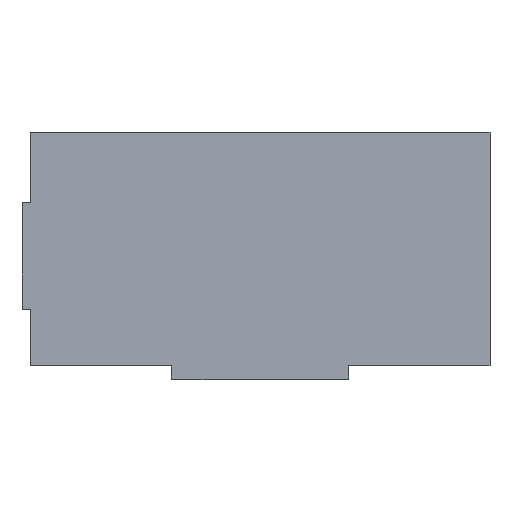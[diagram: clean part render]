
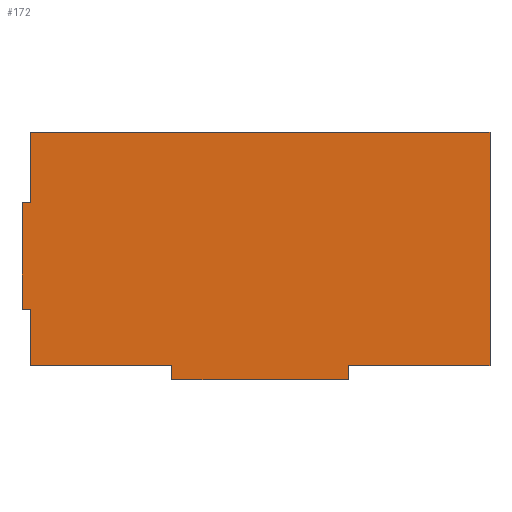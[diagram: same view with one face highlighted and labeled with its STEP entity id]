
A CAD part, top view. The second image highlights one B-rep face of the part: STEP entity #172.
In plain terms, the highlighted planar face has unit normal (0, 0, 1).
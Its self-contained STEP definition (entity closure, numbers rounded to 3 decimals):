
#4 = LINE ( 'NONE', #367, #322 ) ;
#5 = VERTEX_POINT ( 'NONE', #161 ) ;
#6 = CARTESIAN_POINT ( 'NONE',  ( -389.862, 93.666, 12. ) ) ;
#13 = EDGE_CURVE ( 'NONE', #223, #259, #382, .T. ) ;
#15 = VECTOR ( 'NONE', #318, 1000. ) ;
#18 = CARTESIAN_POINT ( 'NONE',  ( -389.862, -56.334, 12. ) ) ;
#22 = DIRECTION ( 'NONE',  ( 0., 1., 0. ) ) ;
#23 = VECTOR ( 'NONE', #123, 1000. ) ;
#24 = LINE ( 'NONE', #165, #403 ) ;
#25 = PLANE ( 'NONE',  #425 ) ;
#36 = EDGE_CURVE ( 'NONE', #466, #175, #135, .T. ) ;
#41 = VECTOR ( 'NONE', #272, 1000. ) ;
#43 = DIRECTION ( 'NONE',  ( -1., 0., 0. ) ) ;
#45 = CARTESIAN_POINT ( 'NONE',  ( -177.862, -136.513, 12. ) ) ;
#46 = LINE ( 'NONE', #309, #396 ) ;
#57 = CARTESIAN_POINT ( 'NONE',  ( -389.862, 93.666, 12. ) ) ;
#60 = LINE ( 'NONE', #94, #15 ) ;
#63 = CARTESIAN_POINT ( 'NONE',  ( 272.138, 193.666, 12. ) ) ;
#65 = ORIENTED_EDGE ( 'NONE', *, *, #13, .T. ) ;
#67 = VERTEX_POINT ( 'NONE', #6 ) ;
#70 = EDGE_CURVE ( 'NONE', #432, #67, #4, .T. ) ;
#75 = ORIENTED_EDGE ( 'NONE', *, *, #154, .T. ) ;
#77 = VECTOR ( 'NONE', #22, 1000. ) ;
#80 = LINE ( 'NONE', #153, #365 ) ;
#84 = EDGE_CURVE ( 'NONE', #175, #223, #184, .T. ) ;
#88 = LINE ( 'NONE', #18, #23 ) ;
#94 = CARTESIAN_POINT ( 'NONE',  ( -377.862, -56.334, 12. ) ) ;
#102 = ORIENTED_EDGE ( 'NONE', *, *, #434, .T. ) ;
#104 = CARTESIAN_POINT ( 'NONE',  ( 72.138, -136.513, 12. ) ) ;
#110 = VERTEX_POINT ( 'NONE', #361 ) ;
#123 = DIRECTION ( 'NONE',  ( 1., 0., 0. ) ) ;
#129 = FACE_OUTER_BOUND ( 'NONE', #186, .T. ) ;
#131 = VECTOR ( 'NONE', #206, 1000. ) ;
#135 = LINE ( 'NONE', #205, #77 ) ;
#136 = DIRECTION ( 'NONE',  ( 0., -1., 0. ) ) ;
#153 = CARTESIAN_POINT ( 'NONE',  ( -377.862, 193.666, 12. ) ) ;
#154 = EDGE_CURVE ( 'NONE', #259, #5, #80, .T. ) ;
#158 = CARTESIAN_POINT ( 'NONE',  ( -377.862, 93.666, 12. ) ) ;
#160 = CARTESIAN_POINT ( 'NONE',  ( -377.862, -136.513, 12. ) ) ;
#161 = CARTESIAN_POINT ( 'NONE',  ( -377.862, 193.666, 12. ) ) ;
#165 = CARTESIAN_POINT ( 'NONE',  ( -377.862, 193.666, 12. ) ) ;
#166 = CARTESIAN_POINT ( 'NONE',  ( 0., 0., 12. ) ) ;
#171 = DIRECTION ( 'NONE',  ( 0., 0., -1. ) ) ;
#172 = ADVANCED_FACE ( 'NONE', ( #129 ), #25, .F. ) ;
#173 = CARTESIAN_POINT ( 'NONE',  ( 272.138, 193.666, 12. ) ) ;
#175 = VERTEX_POINT ( 'NONE', #200 ) ;
#184 = LINE ( 'NONE', #104, #358 ) ;
#186 = EDGE_LOOP ( 'NONE', ( #212, #352, #102, #329, #281, #65, #75, #327, #363, #430, #364, #362 ) ) ;
#189 = EDGE_CURVE ( 'NONE', #110, #249, #88, .T. ) ;
#194 = LINE ( 'NONE', #304, #274 ) ;
#195 = VECTOR ( 'NONE', #136, 1000. ) ;
#200 = CARTESIAN_POINT ( 'NONE',  ( 72.138, -136.513, 12. ) ) ;
#205 = CARTESIAN_POINT ( 'NONE',  ( 72.138, -136.513, 12. ) ) ;
#206 = DIRECTION ( 'NONE',  ( 0., -1., 0. ) ) ;
#212 = ORIENTED_EDGE ( 'NONE', *, *, #371, .T. ) ;
#223 = VERTEX_POINT ( 'NONE', #454 ) ;
#229 = DIRECTION ( 'NONE',  ( 1., 0., 0. ) ) ;
#239 = LINE ( 'NONE', #453, #195 ) ;
#242 = CARTESIAN_POINT ( 'NONE',  ( -377.862, -56.334, 12. ) ) ;
#249 = VERTEX_POINT ( 'NONE', #242 ) ;
#259 = VERTEX_POINT ( 'NONE', #173 ) ;
#263 = EDGE_CURVE ( 'NONE', #67, #110, #422, .T. ) ;
#266 = EDGE_CURVE ( 'NONE', #5, #432, #24, .T. ) ;
#272 = DIRECTION ( 'NONE',  ( 0., 1., 0. ) ) ;
#273 = EDGE_CURVE ( 'NONE', #393, #389, #239, .T. ) ;
#274 = VECTOR ( 'NONE', #229, 1000. ) ;
#281 = ORIENTED_EDGE ( 'NONE', *, *, #84, .T. ) ;
#293 = EDGE_CURVE ( 'NONE', #249, #324, #60, .T. ) ;
#304 = CARTESIAN_POINT ( 'NONE',  ( -177.862, -156.334, 12. ) ) ;
#309 = CARTESIAN_POINT ( 'NONE',  ( -377.862, -136.513, 12. ) ) ;
#315 = DIRECTION ( 'NONE',  ( 0., -1., 0. ) ) ;
#318 = DIRECTION ( 'NONE',  ( 0., -1., 0. ) ) ;
#322 = VECTOR ( 'NONE', #399, 1000. ) ;
#324 = VERTEX_POINT ( 'NONE', #160 ) ;
#327 = ORIENTED_EDGE ( 'NONE', *, *, #266, .T. ) ;
#329 = ORIENTED_EDGE ( 'NONE', *, *, #36, .T. ) ;
#341 = CARTESIAN_POINT ( 'NONE',  ( 72.138, -156.334, 12. ) ) ;
#352 = ORIENTED_EDGE ( 'NONE', *, *, #273, .T. ) ;
#358 = VECTOR ( 'NONE', #465, 1000. ) ;
#361 = CARTESIAN_POINT ( 'NONE',  ( -389.862, -56.334, 12. ) ) ;
#362 = ORIENTED_EDGE ( 'NONE', *, *, #293, .T. ) ;
#363 = ORIENTED_EDGE ( 'NONE', *, *, #70, .T. ) ;
#364 = ORIENTED_EDGE ( 'NONE', *, *, #189, .T. ) ;
#365 = VECTOR ( 'NONE', #43, 1000. ) ;
#367 = CARTESIAN_POINT ( 'NONE',  ( -389.862, 93.666, 12. ) ) ;
#369 = CARTESIAN_POINT ( 'NONE',  ( -177.862, -156.334, 12. ) ) ;
#371 = EDGE_CURVE ( 'NONE', #324, #393, #46, .T. ) ;
#382 = LINE ( 'NONE', #63, #41 ) ;
#389 = VERTEX_POINT ( 'NONE', #369 ) ;
#393 = VERTEX_POINT ( 'NONE', #45 ) ;
#396 = VECTOR ( 'NONE', #410, 1000. ) ;
#399 = DIRECTION ( 'NONE',  ( -1., 0., 0. ) ) ;
#403 = VECTOR ( 'NONE', #315, 1000. ) ;
#410 = DIRECTION ( 'NONE',  ( 1., 0., 0. ) ) ;
#422 = LINE ( 'NONE', #57, #131 ) ;
#425 = AXIS2_PLACEMENT_3D ( 'NONE', #166, #171, #455 ) ;
#430 = ORIENTED_EDGE ( 'NONE', *, *, #263, .T. ) ;
#432 = VERTEX_POINT ( 'NONE', #158 ) ;
#434 = EDGE_CURVE ( 'NONE', #389, #466, #194, .T. ) ;
#453 = CARTESIAN_POINT ( 'NONE',  ( -177.862, -136.513, 12. ) ) ;
#454 = CARTESIAN_POINT ( 'NONE',  ( 272.138, -136.513, 12. ) ) ;
#455 = DIRECTION ( 'NONE',  ( -1., 0., 0. ) ) ;
#465 = DIRECTION ( 'NONE',  ( 1., 0., 0. ) ) ;
#466 = VERTEX_POINT ( 'NONE', #341 ) ;
